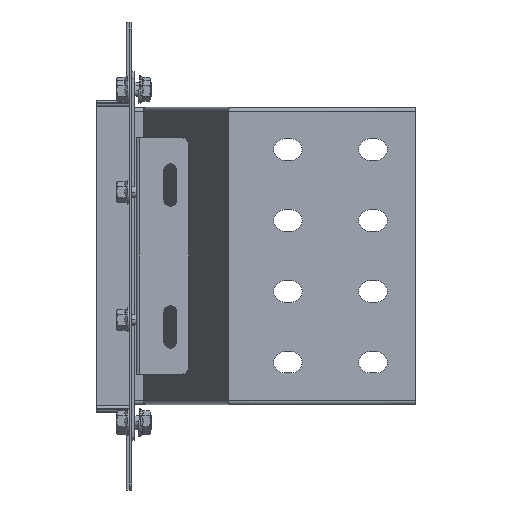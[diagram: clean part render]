
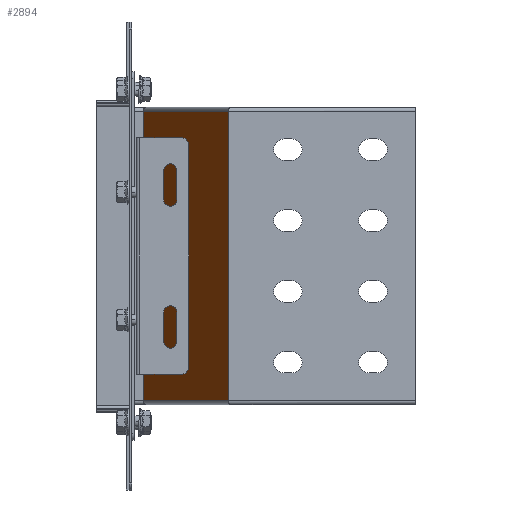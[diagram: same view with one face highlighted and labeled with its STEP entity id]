
A CAD part, front view. The second image highlights one B-rep face of the part: STEP entity #2894.
In plain terms, the highlighted planar face has unit normal (-0.919, -0.393, 0).
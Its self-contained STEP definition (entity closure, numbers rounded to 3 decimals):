
#2886=AXIS2_PLACEMENT_3D('Plane Axis2P3D',#2883,#2884,#2885) ;
#1570=CARTESIAN_POINT('Vertex',(68.119,-152.85,-102.15)) ;
#1584=CARTESIAN_POINT('Vertex',(68.119,-152.85,102.15)) ;
#1587=CARTESIAN_POINT('Line Origine',(68.119,-152.85,0.)) ;
#2236=CARTESIAN_POINT('Vertex',(8.119,-12.54,102.15)) ;
#2239=CARTESIAN_POINT('Line Origine',(37.38,-80.966,102.15)) ;
#2346=CARTESIAN_POINT('Vertex',(8.119,-12.54,-102.15)) ;
#2381=CARTESIAN_POINT('Line Origine',(37.38,-80.966,-102.15)) ;
#2423=CARTESIAN_POINT('Line Origine',(8.119,-12.54,0.)) ;
#2883=CARTESIAN_POINT('Axis2P3D Location',(68.859,-154.579,-102.15)) ;
#1588=DIRECTION('Vector Direction',(0.,0.,1.)) ;
#2240=DIRECTION('Vector Direction',(0.393,-0.919,0.)) ;
#2382=DIRECTION('Vector Direction',(0.393,-0.919,0.)) ;
#2424=DIRECTION('Vector Direction',(0.,0.,1.)) ;
#2884=DIRECTION('Axis2P3D Direction',(-0.919,-0.393,0.)) ;
#2885=DIRECTION('Axis2P3D XDirection',(0.,0.,1.)) ;
#1589=VECTOR('Line Direction',#1588,1.) ;
#2241=VECTOR('Line Direction',#2240,1.) ;
#2383=VECTOR('Line Direction',#2382,1.) ;
#2425=VECTOR('Line Direction',#2424,1.) ;
#2889=ORIENTED_EDGE('',*,*,#2243,.T.) ;
#2890=ORIENTED_EDGE('',*,*,#2427,.F.) ;
#2891=ORIENTED_EDGE('',*,*,#2385,.F.) ;
#2892=ORIENTED_EDGE('',*,*,#1591,.T.) ;
#2894=ADVANCED_FACE('N',(#2893),#2887,.T.) ;
#1591=EDGE_CURVE('',#1571,#1585,#1590,.T.) ;
#2243=EDGE_CURVE('',#1585,#2237,#2242,.F.) ;
#2385=EDGE_CURVE('',#1571,#2347,#2384,.F.) ;
#2427=EDGE_CURVE('',#2347,#2237,#2426,.T.) ;
#2888=EDGE_LOOP('',(#2889,#2890,#2891,#2892)) ;
#2893=FACE_OUTER_BOUND('',#2888,.T.) ;
#1590=LINE('Line',#1587,#1589) ;
#2242=LINE('Line',#2239,#2241) ;
#2384=LINE('Line',#2381,#2383) ;
#2426=LINE('Line',#2423,#2425) ;
#2887=PLANE('',#2886) ;
#1571=VERTEX_POINT('',#1570) ;
#1585=VERTEX_POINT('',#1584) ;
#2237=VERTEX_POINT('',#2236) ;
#2347=VERTEX_POINT('',#2346) ;
